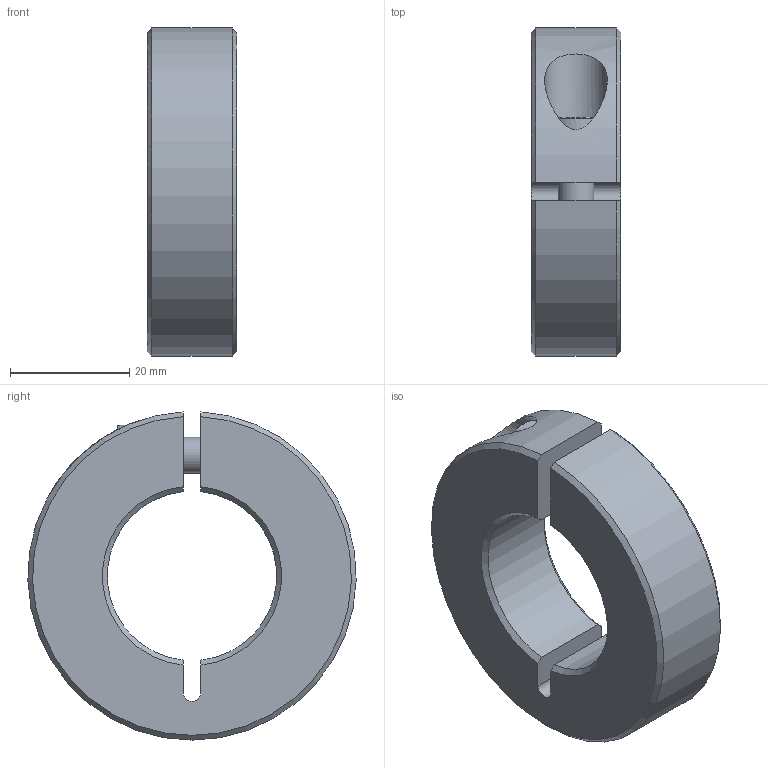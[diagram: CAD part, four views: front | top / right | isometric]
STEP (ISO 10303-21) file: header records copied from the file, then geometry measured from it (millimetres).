
FILE_DESCRIPTION( ( 'STEP AP203' ), '1' );
FILE_NAME( 'C:/Temp/Ganter_Step_05_03_2020/data/3_2/gn706_3/gn706_3_st/Threaded set collar GN 706.3-55-M30x1,5-ST.stp', '2020-03-13T05:33:36', ( 'License CC BY-ND 4.0' ), ( 'CADENAS' ), ' ', 'PARTsolutions', ' ' );
FILE_SCHEMA( ( 'CONFIG_CONTROL_DESIGN' ) );
Length unit declared in the file: millimetre
Products named in the file (1): _Threaded set collar GN 706.3-55-M30x1,5-ST
Bounding box: 15 x 54.98 x 54.96 mm (x, y, z)
Volume: 24429.3 mm3; surface area: 8442.4 mm2
Topology: 1 solids, 2 shells, 35 faces, 83 edges, 55 vertices
Faces by surface type: plane 17, cylinder 9, cone 8, torus 1
Full cylindrical faces by diameter (mm): 4.917 x1, 6 x1, 6.3 x1, 10 x1, 10.5 x1
Entity records: 1086 total; most frequent: CARTESIAN_POINT 276, DIRECTION 156, ORIENTED_EDGE 144, EDGE_CURVE 72, AXIS2_PLACEMENT_3D 61, VERTEX_POINT 53, EDGE_LOOP 48, FACE_OUTER_BOUND 41
